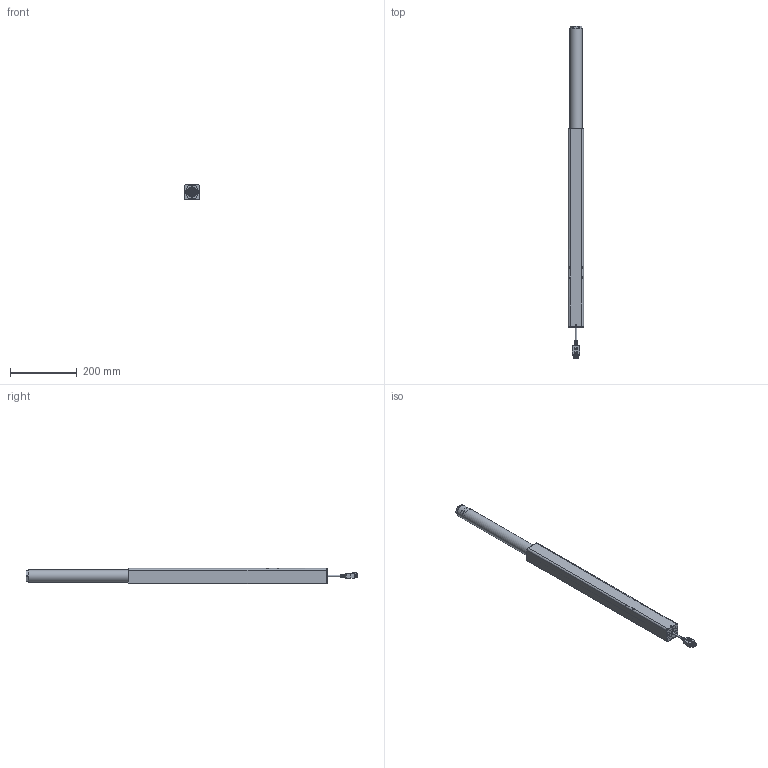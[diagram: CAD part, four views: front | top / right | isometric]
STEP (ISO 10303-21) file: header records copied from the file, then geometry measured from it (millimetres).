
FILE_DESCRIPTION(/* description */ ('Unknown'),/* implementation_level */ '2;1');
FILE_NAME(/* name */ '904.01003_00-Ausgefahren',/* time_stamp */ '2022-02-02T09:37:59+01:00',/* author */ ('Unknown'),/* organization */ ('Unknown'),/* preprocessor_version */ 'ST-DEVELOPER v18.1',/* originating_system */ 'Solid Edge',/* authorisation */ 'Unknown');
FILE_SCHEMA (('FEATURE_BASED_PROCESS_PLANNING','AP242_MANAGED_MODEL_BASED_3D_ENGINEERING_MIM_LF { 1 0 10303 442 1 1 4 }','AUTOMOTIVE_DESIGN {1 0 10303 214 3 1 1}'));
Products named in the file (9): 904.01003; 119.00470; 123.00115; 125.00272; 128.00015; 128.00026; 142.00239; 142.00275; Kabel Molex_kurz
Assembly tree (13 placements, depth 2):
  904.01003
    119.00470
    123.00115
    125.00272
    128.00015
    128.00026  x2
    142.00239  x4
    142.00275  x2
    Kabel Molex_kurz
Bounding box: 45 x 991.5 x 45 mm (x, y, z)
Volume: 602093.3 mm3; surface area: 303782.2 mm2
Topology: 13 solids, 13 shells, 3177 faces, 8620 edges, 5549 vertices
Faces by surface type: plane 1922, cylinder 768, bspline 206, torus 129, sphere 78, cone 74
Full cylindrical faces by diameter (mm): 1.25 x2, 2.459 x2, 2.6 x2, 3 x2, 4 x12, 4.917 x6, 5 x1, 6.647 x1, 8.376 x2, 28.3 x1, 30 x1, 31.8 x3, 32 x2, 36 x2, 39 x1, 44 x1
Entity records: 64556 total; most frequent: CARTESIAN_POINT 14974, ORIENTED_EDGE 9750, DIRECTION 9116, EDGE_CURVE 4875, LINE 3300, VECTOR 3300, VERTEX_POINT 3188, AXIS2_PLACEMENT_3D 2908
